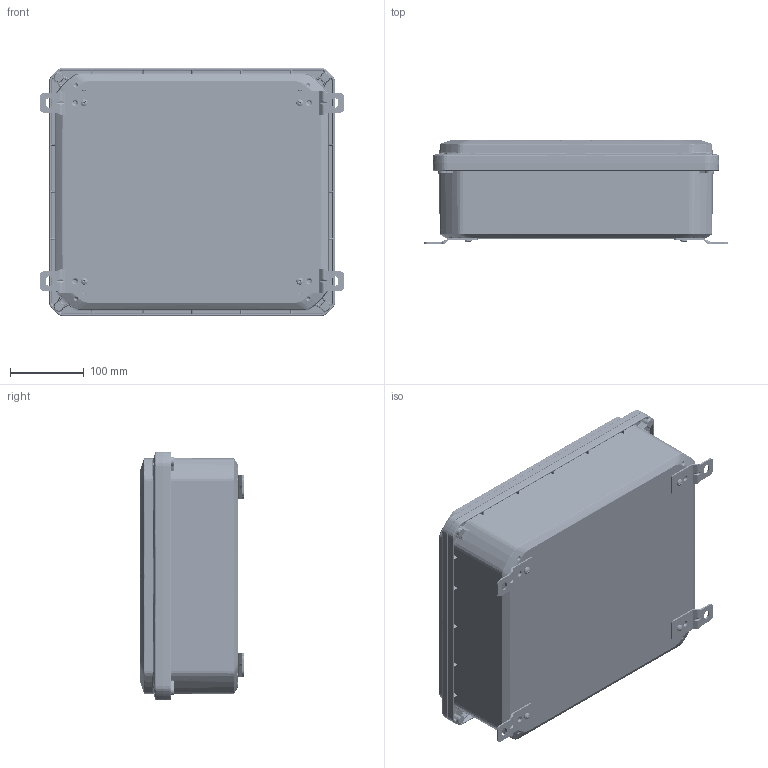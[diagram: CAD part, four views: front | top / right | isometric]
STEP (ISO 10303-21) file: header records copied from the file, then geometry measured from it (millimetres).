
FILE_DESCRIPTION (( 'STEP AP214' ), '1' );
FILE_NAME ('ZQ-141204-43.STEP', '2024-10-25T19:40:53', ( '' ), ( '' ), 'SwSTEP 2.0', 'SolidWorks 2024', '' );
FILE_SCHEMA (( 'AUTOMOTIVE_DESIGN' ));
Products named in the file (11): ZQ-141204-43; Z_-14124B_ZQ-14124B-01; Z_-14124BI_ZQ-14124BI-01; Z_-14121CG_ZQ-14121CG-02; INSERTS-4; Z_-14121C_ZQ-14121C-02; SCREWS-046_SCREWS-046; LABEL-104; ZH-1412G; ZH-91F-01_ZH-91F-01; SCREWS-049_SCREWS-049
Assembly tree (30 placements, depth 3):
  ZQ-141204-43
    Z_-14124BI_ZQ-14124BI-01
      Z_-14124B_ZQ-14124B-01
      INSERTS-4  x12
      LABEL-104
    Z_-14121CG_ZQ-14121CG-02
      Z_-14121C_ZQ-14121C-02
      ZH-1412G
    SCREWS-046_SCREWS-046  x4
    ZH-91F-01_ZH-91F-01  x4
    SCREWS-049_SCREWS-049  x4
Bounding box: 412.75 x 139.7 x 336.3 mm (x, y, z)
Volume: 2066892.7 mm3; surface area: 983830.9 mm2
Topology: 28 solids, 28 shells, 6026 faces, 14766 edges, 8818 vertices
Faces by surface type: bspline 1688, plane 1290, cone 1200, cylinder 1064, torus 752, sphere 32
Entity records: 212826 total; most frequent: CARTESIAN_POINT 123831, ORIENTED_EDGE 20304, DIRECTION 16656, EDGE_CURVE 10152, AXIS2_PLACEMENT_3D 7229, VERTEX_POINT 5951, EDGE_LOOP 4525, CIRCLE 4450
